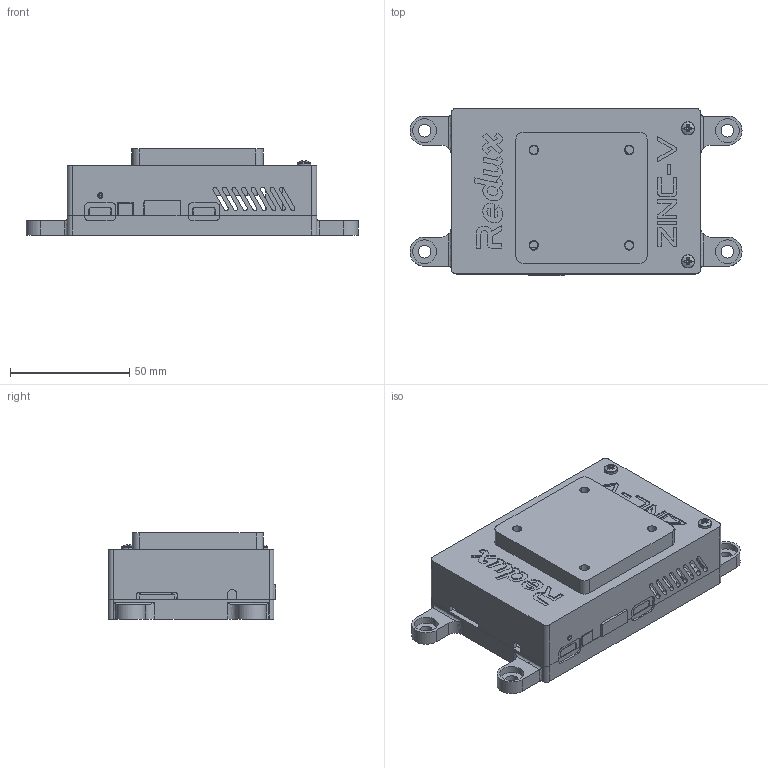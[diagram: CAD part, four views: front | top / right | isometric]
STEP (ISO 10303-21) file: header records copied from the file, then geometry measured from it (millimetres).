
FILE_DESCRIPTION(/* description */ ('STEP AP242','CAx-IF Rec.Pracs.---Representation and Presentation of Product Manufacturing Information (PMI)---4.0---2014-10-13','CAx-IF Rec.Pracs.---3D Tessellated Geometry---0.4---2014-09-14','2;1'),/* implementation_level */ '2;1');
FILE_NAME(/* name */ 'ZINCVOPICASE',/* time_stamp */ '2024-09-15T02:53:05Z');
FILE_SCHEMA (('AP242_MANAGED_MODEL_BASED_3D_ENGINEERING_MIM_LF { 1 0 10303 442 1 1 4 }'));
Length unit declared in the file: metre
Products named in the file (10): Locking OPi5 Case; CUI 5010 Fan; Hex machine screw nut #4-40; Hex nut style 1 grade A & B M2x0.4; Pan head machine screw #4-40 x 1.125; LockingOpi5-Base; Pan head machine screw #4-40 x 0.3125; 50mmfanfilter; LockingOpi5-Lid; Orange Pi 5
Assembly tree (14 placements, depth 2):
  Locking OPi5 Case
    CUI 5010 Fan
    Hex machine screw nut #4-40  x4
    Hex nut style 1 grade A & B M2x0.4
    Pan head machine screw #4-40 x 1.125  x2
    LockingOpi5-Base
    Pan head machine screw #4-40 x 0.3125  x2
    50mmfanfilter
    LockingOpi5-Lid
    Orange Pi 5
Bounding box: 139.3 x 70.2 x 36.2 mm (x, y, z)
Volume: 104414.5 mm3; surface area: 87180.7 mm2
Topology: 14 solids, 16 shells, 1370 faces, 3807 edges, 2444 vertices
Faces by surface type: bspline 1370
Entity records: 41067 total; most frequent: CARTESIAN_POINT 13876, ORIENTED_EDGE 6600, DIRECTION 3853, EDGE_CURVE 3300, VERTEX_POINT 2184, LINE 2033, VECTOR 2033, EDGE_LOOP 1384
